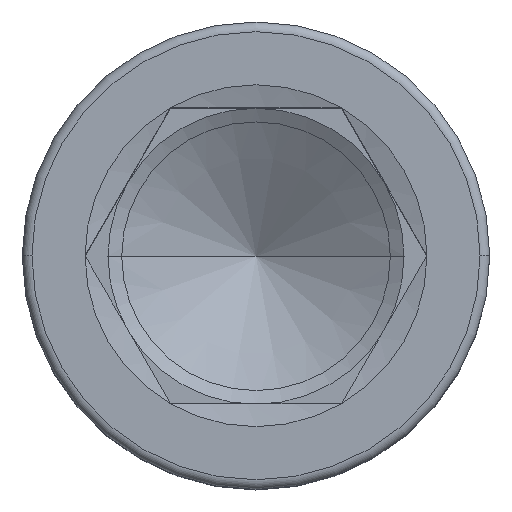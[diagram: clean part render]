
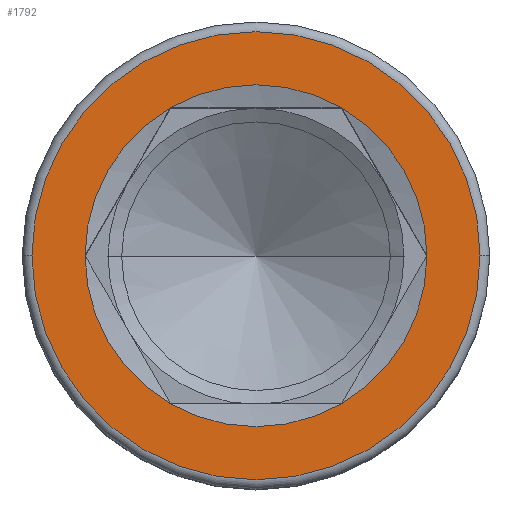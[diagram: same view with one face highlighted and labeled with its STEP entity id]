
A CAD part, top view. The second image highlights one B-rep face of the part: STEP entity #1792.
In plain terms, the highlighted planar face has unit normal (0, 0, 1).
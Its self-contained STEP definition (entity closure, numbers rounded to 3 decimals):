
#58 = DIRECTION ( 'NONE',  ( 1., 0., 0. ) ) ;
#85 = CARTESIAN_POINT ( 'NONE',  ( 0., 0., 20. ) ) ;
#91 = DIRECTION ( 'NONE',  ( 0., 0., 1. ) ) ;
#95 = ORIENTED_EDGE ( 'NONE', *, *, #1601, .F. ) ;
#104 = CIRCLE ( 'NONE', #1992, 10.97 ) ;
#128 = CARTESIAN_POINT ( 'NONE',  ( 0., 0., 20. ) ) ;
#141 = DIRECTION ( 'NONE',  ( 0., 0., 1. ) ) ;
#142 = AXIS2_PLACEMENT_3D ( 'NONE', #128, #753, #765 ) ;
#158 = CARTESIAN_POINT ( 'NONE',  ( 0., 0., 20. ) ) ;
#170 = ORIENTED_EDGE ( 'NONE', *, *, #1182, .T. ) ;
#182 = DIRECTION ( 'NONE',  ( 1., 0., 0. ) ) ;
#205 = CARTESIAN_POINT ( 'NONE',  ( 14.38, 0., 20. ) ) ;
#242 = EDGE_CURVE ( 'NONE', #837, #1465, #326, .T. ) ;
#255 = VERTEX_POINT ( 'NONE', #1584 ) ;
#318 = DIRECTION ( 'NONE',  ( 1., 0., 0. ) ) ;
#326 = CIRCLE ( 'NONE', #392, 10.97 ) ;
#339 = DIRECTION ( 'NONE',  ( 0., 0., 1. ) ) ;
#392 = AXIS2_PLACEMENT_3D ( 'NONE', #635, #1267, #1881 ) ;
#393 = CARTESIAN_POINT ( 'NONE',  ( 5.485, -9.5, 20. ) ) ;
#425 = AXIS2_PLACEMENT_3D ( 'NONE', #1103, #141, #318 ) ;
#430 = AXIS2_PLACEMENT_3D ( 'NONE', #592, #1981, #579 ) ;
#437 = ORIENTED_EDGE ( 'NONE', *, *, #1960, .F. ) ;
#451 = DIRECTION ( 'NONE',  ( 1., 0., 0. ) ) ;
#458 = CIRCLE ( 'NONE', #425, 10.97 ) ;
#519 = VERTEX_POINT ( 'NONE', #205 ) ;
#528 = CIRCLE ( 'NONE', #142, 10.97 ) ;
#530 = ORIENTED_EDGE ( 'NONE', *, *, #1297, .F. ) ;
#553 = VERTEX_POINT ( 'NONE', #393 ) ;
#559 = DIRECTION ( 'NONE',  ( 0., 0., 1. ) ) ;
#579 = DIRECTION ( 'NONE',  ( 1., 0., 0. ) ) ;
#581 = AXIS2_PLACEMENT_3D ( 'NONE', #1498, #91, #714 ) ;
#592 = CARTESIAN_POINT ( 'NONE',  ( 0., 0., 20. ) ) ;
#635 = CARTESIAN_POINT ( 'NONE',  ( 0., 0., 20. ) ) ;
#638 = EDGE_CURVE ( 'NONE', #1465, #1887, #1732, .T. ) ;
#702 = EDGE_CURVE ( 'NONE', #519, #255, #1474, .T. ) ;
#714 = DIRECTION ( 'NONE',  ( 1., 0., 0. ) ) ;
#753 = DIRECTION ( 'NONE',  ( 0., 0., 1. ) ) ;
#765 = DIRECTION ( 'NONE',  ( 1., 0., 0. ) ) ;
#802 = VERTEX_POINT ( 'NONE', #1616 ) ;
#820 = CIRCLE ( 'NONE', #1639, 14.38 ) ;
#834 = CARTESIAN_POINT ( 'NONE',  ( 0., 0., 20. ) ) ;
#837 = VERTEX_POINT ( 'NONE', #1912 ) ;
#844 = PLANE ( 'NONE',  #1017 ) ;
#919 = CIRCLE ( 'NONE', #430, 10.97 ) ;
#972 = CARTESIAN_POINT ( 'NONE',  ( 10.97, 0., 20. ) ) ;
#986 = ORIENTED_EDGE ( 'NONE', *, *, #638, .F. ) ;
#1017 = AXIS2_PLACEMENT_3D ( 'NONE', #834, #1461, #58 ) ;
#1089 = DIRECTION ( 'NONE',  ( 0., 0., 1. ) ) ;
#1103 = CARTESIAN_POINT ( 'NONE',  ( 0., 0., 20. ) ) ;
#1159 = EDGE_LOOP ( 'NONE', ( #2007, #170 ) ) ;
#1182 = EDGE_CURVE ( 'NONE', #255, #519, #820, .T. ) ;
#1197 = DIRECTION ( 'NONE',  ( 1., 0., 0. ) ) ;
#1207 = EDGE_LOOP ( 'NONE', ( #1758, #530, #437, #95, #986, #1654 ) ) ;
#1267 = DIRECTION ( 'NONE',  ( 0., 0., 1. ) ) ;
#1297 = EDGE_CURVE ( 'NONE', #553, #1649, #458, .T. ) ;
#1461 = DIRECTION ( 'NONE',  ( 0., 0., 1. ) ) ;
#1465 = VERTEX_POINT ( 'NONE', #1690 ) ;
#1474 = CIRCLE ( 'NONE', #581, 14.38 ) ;
#1498 = CARTESIAN_POINT ( 'NONE',  ( 0., 0., 20. ) ) ;
#1575 = AXIS2_PLACEMENT_3D ( 'NONE', #85, #559, #1197 ) ;
#1584 = CARTESIAN_POINT ( 'NONE',  ( -14.38, 0., 20. ) ) ;
#1590 = FACE_OUTER_BOUND ( 'NONE', #1159, .T. ) ;
#1601 = EDGE_CURVE ( 'NONE', #1887, #802, #104, .T. ) ;
#1616 = CARTESIAN_POINT ( 'NONE',  ( -5.485, -9.5, 20. ) ) ;
#1619 = FACE_BOUND ( 'NONE', #1207, .T. ) ;
#1639 = AXIS2_PLACEMENT_3D ( 'NONE', #158, #1089, #451 ) ;
#1649 = VERTEX_POINT ( 'NONE', #972 ) ;
#1654 = ORIENTED_EDGE ( 'NONE', *, *, #242, .F. ) ;
#1681 = CARTESIAN_POINT ( 'NONE',  ( -10.97, 0., 20. ) ) ;
#1690 = CARTESIAN_POINT ( 'NONE',  ( -5.485, 9.5, 20. ) ) ;
#1732 = CIRCLE ( 'NONE', #1575, 10.97 ) ;
#1753 = CARTESIAN_POINT ( 'NONE',  ( 0., 0., 20. ) ) ;
#1758 = ORIENTED_EDGE ( 'NONE', *, *, #1878, .F. ) ;
#1792 = ADVANCED_FACE ( 'NONE', ( #1590, #1619 ), #844, .T. ) ;
#1878 = EDGE_CURVE ( 'NONE', #1649, #837, #919, .T. ) ;
#1881 = DIRECTION ( 'NONE',  ( 1., 0., 0. ) ) ;
#1887 = VERTEX_POINT ( 'NONE', #1681 ) ;
#1912 = CARTESIAN_POINT ( 'NONE',  ( 5.485, 9.5, 20. ) ) ;
#1960 = EDGE_CURVE ( 'NONE', #802, #553, #528, .T. ) ;
#1981 = DIRECTION ( 'NONE',  ( 0., 0., 1. ) ) ;
#1992 = AXIS2_PLACEMENT_3D ( 'NONE', #1753, #339, #182 ) ;
#2007 = ORIENTED_EDGE ( 'NONE', *, *, #702, .T. ) ;
